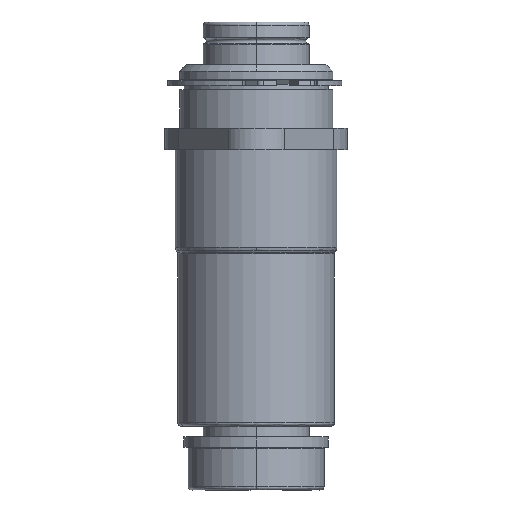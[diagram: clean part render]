
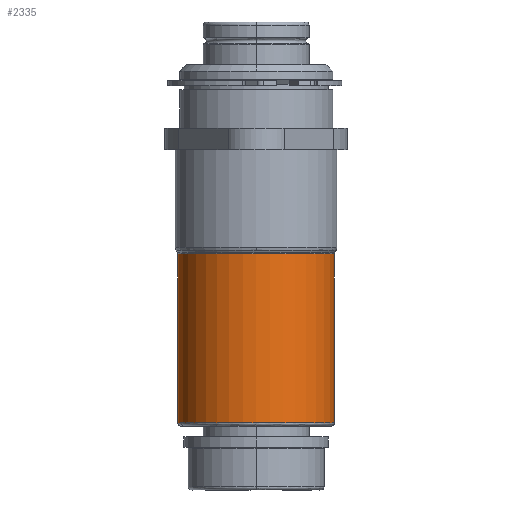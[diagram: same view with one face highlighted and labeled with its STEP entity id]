
A CAD part, left-side view. The second image highlights one B-rep face of the part: STEP entity #2335.
In plain terms, the highlighted cylindrical face has radius 23.368 mm (diameter 46.736 mm), a partial arc.
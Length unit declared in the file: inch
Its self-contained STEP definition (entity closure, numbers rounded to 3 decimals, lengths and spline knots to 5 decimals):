
#16 = CIRCLE ( 'NONE', #4656, 0.92 ) ;
#170 = CARTESIAN_POINT ( 'NONE',  ( 0., -1.225, -0.92 ) ) ;
#183 = CARTESIAN_POINT ( 'NONE',  ( 0., -3.21, 0.92 ) ) ;
#184 = EDGE_CURVE ( 'NONE', #3607, #4458, #2274, .T. ) ;
#204 = CARTESIAN_POINT ( 'NONE',  ( 0., -3.21, 0. ) ) ;
#231 = CARTESIAN_POINT ( 'NONE',  ( 0., -3.25, 0. ) ) ;
#323 = ORIENTED_EDGE ( 'NONE', *, *, #4279, .T. ) ;
#358 = CYLINDRICAL_SURFACE ( 'NONE', #4553, 0.92 ) ;
#605 = LINE ( 'NONE', #4321, #3383 ) ;
#675 = CARTESIAN_POINT ( 'NONE',  ( 0., -1.225, 0. ) ) ;
#886 = EDGE_CURVE ( 'NONE', #4458, #4050, #3752, .T. ) ;
#950 = DIRECTION ( 'NONE',  ( 0., 0., 1. ) ) ;
#1180 = ORIENTED_EDGE ( 'NONE', *, *, #4877, .T. ) ;
#1199 = AXIS2_PLACEMENT_3D ( 'NONE', #675, #3766, #3369 ) ;
#1235 = CARTESIAN_POINT ( 'NONE',  ( 0., -3.21, -0.92 ) ) ;
#1675 = DIRECTION ( 'NONE',  ( 0., 0., -1. ) ) ;
#2054 = CARTESIAN_POINT ( 'NONE',  ( 0., -1.225, 0.92 ) ) ;
#2184 = ORIENTED_EDGE ( 'NONE', *, *, #886, .F. ) ;
#2268 = DIRECTION ( 'NONE',  ( 0., 1., 0. ) ) ;
#2274 = CIRCLE ( 'NONE', #3526, 0.92 ) ;
#2335 = ADVANCED_FACE ( 'NONE', ( #2764 ), #358, .T. ) ;
#2517 = CARTESIAN_POINT ( 'NONE',  ( 0., -3.25, -0.92 ) ) ;
#2689 = ORIENTED_EDGE ( 'NONE', *, *, #3499, .T. ) ;
#2764 = FACE_OUTER_BOUND ( 'NONE', #4708, .T. ) ;
#2902 = DIRECTION ( 'NONE',  ( 0., -1., 0. ) ) ;
#3075 = DIRECTION ( 'NONE',  ( 0., 0., 1. ) ) ;
#3295 = DIRECTION ( 'NONE',  ( 0., 1., 0. ) ) ;
#3369 = DIRECTION ( 'NONE',  ( 0., 0., 1. ) ) ;
#3383 = VECTOR ( 'NONE', #4308, 39.37008 ) ;
#3391 = VERTEX_POINT ( 'NONE', #2054 ) ;
#3499 = EDGE_CURVE ( 'NONE', #3607, #3391, #605, .T. ) ;
#3526 = AXIS2_PLACEMENT_3D ( 'NONE', #204, #2902, #1675 ) ;
#3607 = VERTEX_POINT ( 'NONE', #183 ) ;
#3752 = LINE ( 'NONE', #2517, #4034 ) ;
#3766 = DIRECTION ( 'NONE',  ( 0., -1., 0. ) ) ;
#3802 = DIRECTION ( 'NONE',  ( 0., -1., 0. ) ) ;
#4034 = VECTOR ( 'NONE', #2268, 39.37008 ) ;
#4050 = VERTEX_POINT ( 'NONE', #170 ) ;
#4230 = CIRCLE ( 'NONE', #1199, 0.92 ) ;
#4251 = CARTESIAN_POINT ( 'NONE',  ( -0.92, -1.225, 0. ) ) ;
#4279 = EDGE_CURVE ( 'NONE', #3391, #4480, #4230, .T. ) ;
#4308 = DIRECTION ( 'NONE',  ( 0., 1., 0. ) ) ;
#4321 = CARTESIAN_POINT ( 'NONE',  ( 0., -3.25, 0.92 ) ) ;
#4458 = VERTEX_POINT ( 'NONE', #1235 ) ;
#4480 = VERTEX_POINT ( 'NONE', #4251 ) ;
#4553 = AXIS2_PLACEMENT_3D ( 'NONE', #231, #3295, #950 ) ;
#4656 = AXIS2_PLACEMENT_3D ( 'NONE', #4669, #3802, #3075 ) ;
#4669 = CARTESIAN_POINT ( 'NONE',  ( 0., -1.225, 0. ) ) ;
#4708 = EDGE_LOOP ( 'NONE', ( #2184, #4891, #2689, #323, #1180 ) ) ;
#4877 = EDGE_CURVE ( 'NONE', #4480, #4050, #16, .T. ) ;
#4891 = ORIENTED_EDGE ( 'NONE', *, *, #184, .F. ) ;
